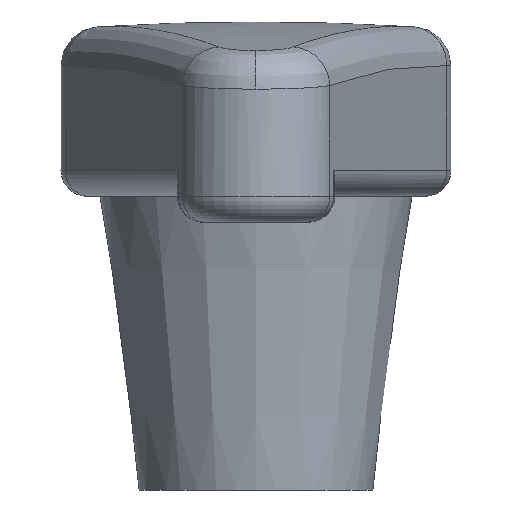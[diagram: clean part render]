
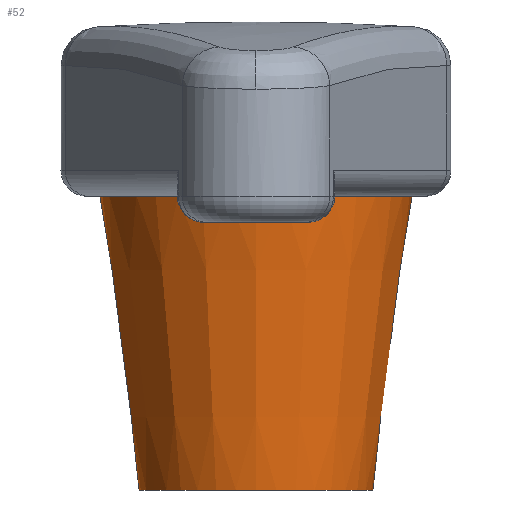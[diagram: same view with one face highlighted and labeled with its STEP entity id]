
A CAD part, left-side view. The second image highlights one B-rep face of the part: STEP entity #52.
In plain terms, the highlighted conical face has half-angle 7.561 degrees and reference radius 9 mm.
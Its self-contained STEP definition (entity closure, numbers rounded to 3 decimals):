
#20=CARTESIAN_POINT('',(0.,0.,0.));
#21=DIRECTION('',(-1.,0.,0.));
#22=DIRECTION('',(0.,0.,1.));
#23=AXIS2_PLACEMENT_3D('',#20,#22,#21);
#24=CONICAL_SURFACE('',#23,9.,0.132);
#25=CARTESIAN_POINT('',(-9.,0.,0.));
#26=VERTEX_POINT('',#25);
#27=CARTESIAN_POINT('',(-12.,0.,22.6));
#28=VERTEX_POINT('',#27);
#29=CARTESIAN_POINT('',(-9.,0.,0.));
#30=DIRECTION('',(-0.132,0.,0.991));
#31=VECTOR('',#30,22.798);
#32=LINE('',#29,#31);
#33=EDGE_CURVE('',#26,#28,#32,.T.);
#34=ORIENTED_EDGE('E97',*,*,#33,.F.);
#35=CARTESIAN_POINT('',(0.,0.,0.));
#36=DIRECTION('',(-1.,0.,0.));
#37=DIRECTION('',(0.,0.,-1.));
#38=AXIS2_PLACEMENT_3D('',#35,#37,#36);
#39=CIRCLE('',#38,9.);
#40=EDGE_CURVE('',#26,#26,#39,.T.);
#41=ORIENTED_EDGE('E94',*,*,#40,.T.);
#42=ORIENTED_EDGE('E94',*,*,#33,.T.);
#43=CARTESIAN_POINT('',(0.,0.,22.6));
#44=DIRECTION('',(-1.,0.,0.));
#45=DIRECTION('',(0.,0.,-1.));
#46=AXIS2_PLACEMENT_3D('',#43,#45,#44);
#47=CIRCLE('',#46,12.);
#48=EDGE_CURVE('',#28,#28,#47,.T.);
#49=ORIENTED_EDGE('E93',*,*,#48,.F.);
#50=EDGE_LOOP('',(#34,#41,#42,#49));
#51=FACE_OUTER_BOUND('',#50,.F.);
#52=ADVANCED_FACE('F32',(#51),#24,.T.);
